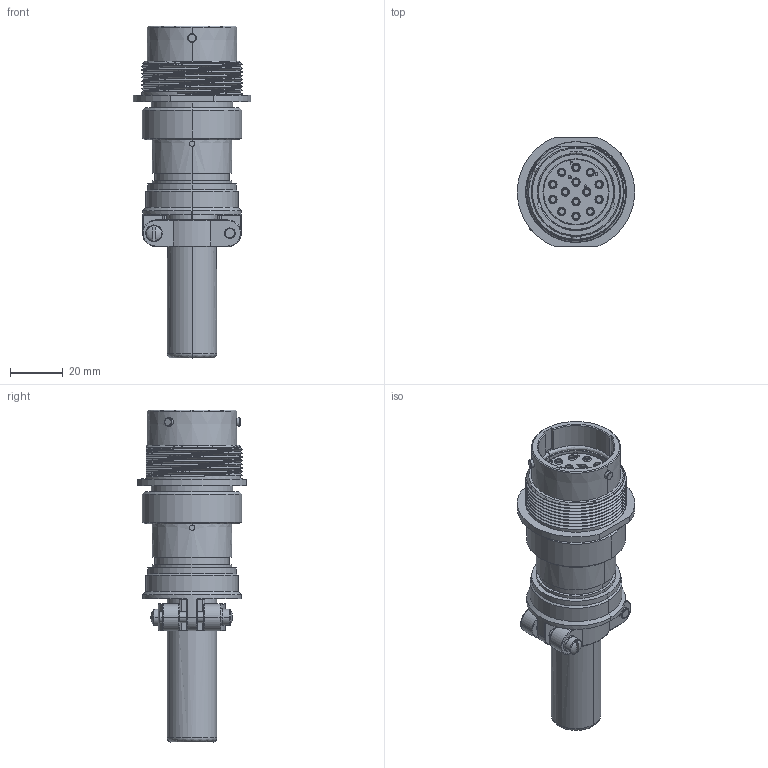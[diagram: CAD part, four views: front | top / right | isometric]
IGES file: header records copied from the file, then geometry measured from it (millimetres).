
Start section:  PTC IGES file: c-hd34-18-14pn-059-99-3d.igs
Global section: file name: c-hd34-18-14pn-059-99-3d.igs; native system: Pro/ENGINEER by Parametric Technology Corporation; preprocessor: 2010430; author: workeradm; organization: Unknown; units: millimetre
Bounding box: 44.45 x 41.27 x 125.64 mm (x, y, z)
Surface area: 21123.3 mm2 (no closed solid volume)
Topology: 0 solids, 0 shells, 595 faces, 2804 edges, 2804 vertices
Faces by surface type: revolution 346, bspline 249
